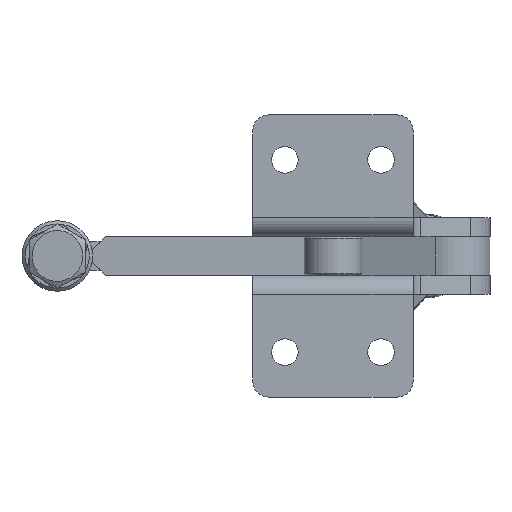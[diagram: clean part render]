
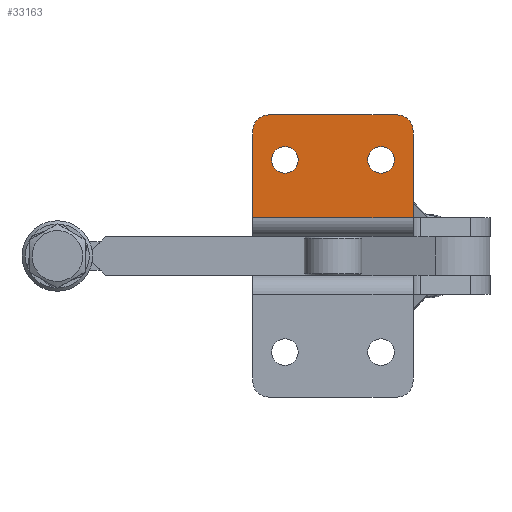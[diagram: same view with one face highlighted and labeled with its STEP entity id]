
A CAD part, front view. The second image highlights one B-rep face of the part: STEP entity #33163.
In plain terms, the highlighted planar face has unit normal (0, -1, 0).
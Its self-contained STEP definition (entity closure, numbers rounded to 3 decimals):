
#1109=FACE_BOUND('',#4738,.T.);
#1110=FACE_BOUND('',#4739,.T.);
#1240=PLANE('',#35472);
#2916=FACE_OUTER_BOUND('',#4737,.T.);
#4737=EDGE_LOOP('',(#24163,#24164,#24165,#24166,#24167,#24168));
#4738=EDGE_LOOP('',(#24169,#24170));
#4739=EDGE_LOOP('',(#24171,#24172));
#6628=LINE('',#75367,#9682);
#6631=LINE('',#75374,#9685);
#6636=LINE('',#75384,#9690);
#6637=LINE('',#75388,#9691);
#9682=VECTOR('',#39509,1000.);
#9685=VECTOR('',#39514,1000.);
#9690=VECTOR('',#39527,1000.);
#9691=VECTOR('',#39530,1000.);
#12627=CIRCLE('',#35435,4.15);
#12630=CIRCLE('',#35438,4.15);
#12631=CIRCLE('',#35440,4.15);
#12634=CIRCLE('',#35443,4.15);
#12651=CIRCLE('',#35473,5.);
#12652=CIRCLE('',#35474,5.);
#14368=VERTEX_POINT('',#74577);
#14369=VERTEX_POINT('',#74578);
#14372=VERTEX_POINT('',#74587);
#14373=VERTEX_POINT('',#74588);
#14483=VERTEX_POINT('',#75364);
#14484=VERTEX_POINT('',#75366);
#14486=VERTEX_POINT('',#75372);
#14487=VERTEX_POINT('',#75373);
#14489=VERTEX_POINT('',#75385);
#14490=VERTEX_POINT('',#75387);
#18072=EDGE_CURVE('',#14368,#14369,#12627,.T.);
#18076=EDGE_CURVE('',#14369,#14368,#12630,.T.);
#18077=EDGE_CURVE('',#14372,#14373,#12631,.T.);
#18081=EDGE_CURVE('',#14373,#14372,#12634,.T.);
#18197=EDGE_CURVE('',#14484,#14483,#6628,.T.);
#18200=EDGE_CURVE('',#14486,#14487,#6631,.T.);
#18206=EDGE_CURVE('',#14483,#14486,#6636,.T.);
#18207=EDGE_CURVE('',#14487,#14489,#12651,.T.);
#18208=EDGE_CURVE('',#14489,#14490,#6637,.T.);
#18209=EDGE_CURVE('',#14490,#14484,#12652,.T.);
#24163=ORIENTED_EDGE('',*,*,#18197,.T.);
#24164=ORIENTED_EDGE('',*,*,#18206,.T.);
#24165=ORIENTED_EDGE('',*,*,#18200,.T.);
#24166=ORIENTED_EDGE('',*,*,#18207,.T.);
#24167=ORIENTED_EDGE('',*,*,#18208,.T.);
#24168=ORIENTED_EDGE('',*,*,#18209,.T.);
#24169=ORIENTED_EDGE('',*,*,#18072,.F.);
#24170=ORIENTED_EDGE('',*,*,#18076,.F.);
#24171=ORIENTED_EDGE('',*,*,#18077,.F.);
#24172=ORIENTED_EDGE('',*,*,#18081,.F.);
#33163=ADVANCED_FACE('',(#2916,#1109,#1110),#1240,.T.);
#35435=AXIS2_PLACEMENT_3D('',#74579,#39374,#39375);
#35438=AXIS2_PLACEMENT_3D('',#74585,#39381,#39382);
#35440=AXIS2_PLACEMENT_3D('',#74589,#39385,#39386);
#35443=AXIS2_PLACEMENT_3D('',#74595,#39392,#39393);
#35472=AXIS2_PLACEMENT_3D('',#75383,#39525,#39526);
#35473=AXIS2_PLACEMENT_3D('',#75386,#39528,#39529);
#35474=AXIS2_PLACEMENT_3D('',#75389,#39531,#39532);
#39374=DIRECTION('center_axis',(0.,-1.,0.));
#39375=DIRECTION('ref_axis',(0.,0.,1.));
#39381=DIRECTION('center_axis',(0.,-1.,0.));
#39382=DIRECTION('ref_axis',(0.,0.,1.));
#39385=DIRECTION('center_axis',(0.,-1.,0.));
#39386=DIRECTION('ref_axis',(0.,0.,-1.));
#39392=DIRECTION('center_axis',(0.,-1.,0.));
#39393=DIRECTION('ref_axis',(0.,0.,-1.));
#39509=DIRECTION('',(0.,0.,-1.));
#39514=DIRECTION('',(0.,0.,1.));
#39525=DIRECTION('center_axis',(0.,-1.,0.));
#39526=DIRECTION('ref_axis',(0.,0.,-1.));
#39527=DIRECTION('',(1.,0.,0.));
#39528=DIRECTION('center_axis',(0.,-1.,0.));
#39529=DIRECTION('ref_axis',(0.,0.,-1.));
#39530=DIRECTION('',(-1.,0.,0.));
#39531=DIRECTION('center_axis',(0.,-1.,0.));
#39532=DIRECTION('ref_axis',(0.,0.,-1.));
#74577=CARTESIAN_POINT('',(40.,0.,28.15));
#74578=CARTESIAN_POINT('',(40.,0.,19.85));
#74579=CARTESIAN_POINT('Origin',(40.,0.,24.));
#74585=CARTESIAN_POINT('Origin',(40.,0.,24.));
#74587=CARTESIAN_POINT('',(10.,0.,28.15));
#74588=CARTESIAN_POINT('',(10.,0.,19.85));
#74589=CARTESIAN_POINT('Origin',(10.,0.,24.));
#74595=CARTESIAN_POINT('Origin',(10.,0.,24.));
#75364=CARTESIAN_POINT('',(0.,0.,6.));
#75366=CARTESIAN_POINT('',(0.,0.,33.));
#75367=CARTESIAN_POINT('',(0.,0.,0.));
#75372=CARTESIAN_POINT('',(50.,0.,6.));
#75373=CARTESIAN_POINT('',(50.,0.,33.));
#75374=CARTESIAN_POINT('',(50.,0.,0.));
#75383=CARTESIAN_POINT('Origin',(45.,0.,33.));
#75384=CARTESIAN_POINT('',(50.,0.,6.));
#75385=CARTESIAN_POINT('',(45.,0.,38.));
#75386=CARTESIAN_POINT('Origin',(45.,0.,33.));
#75387=CARTESIAN_POINT('',(5.,0.,38.));
#75388=CARTESIAN_POINT('',(45.,0.,38.));
#75389=CARTESIAN_POINT('Origin',(5.,0.,33.));
